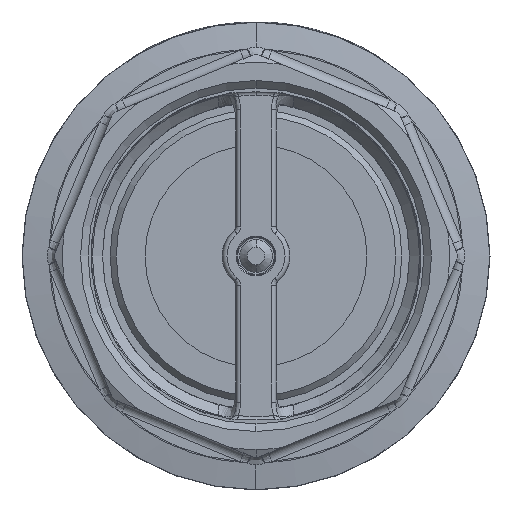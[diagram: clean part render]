
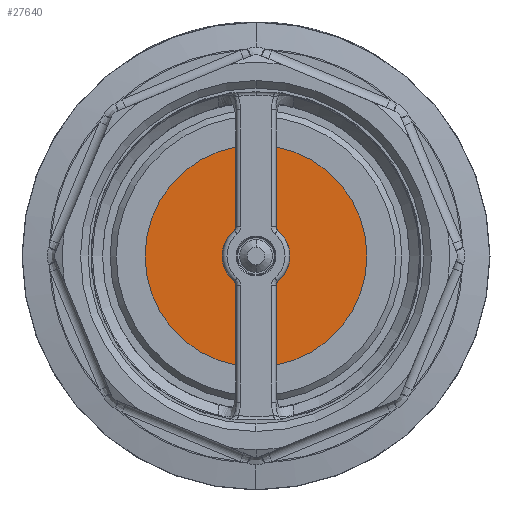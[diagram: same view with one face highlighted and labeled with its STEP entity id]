
A CAD part, front view. The second image highlights one B-rep face of the part: STEP entity #27640.
In plain terms, the highlighted planar face has unit normal (0, -1, 0).
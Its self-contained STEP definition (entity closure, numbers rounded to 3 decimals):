
#11 = CIRCLE ( 'NONE', #4504, 9. ) ;
#1396 = CARTESIAN_POINT ( 'NONE',  ( 0., -86.965, -9. ) ) ;
#1773 = DIRECTION ( 'NONE',  ( 0., -1., 0. ) ) ;
#1849 = DIRECTION ( 'NONE',  ( 0., -1., 0. ) ) ;
#3262 = CARTESIAN_POINT ( 'NONE',  ( 0., -86.965, 0. ) ) ;
#3610 = CARTESIAN_POINT ( 'NONE',  ( 0., -86.965, 0. ) ) ;
#3926 = VERTEX_POINT ( 'NONE', #13769 ) ;
#3985 = PLANE ( 'NONE',  #8192 ) ;
#4504 = AXIS2_PLACEMENT_3D ( 'NONE', #3262, #18778, #5510 ) ;
#4785 = VERTEX_POINT ( 'NONE', #1396 ) ;
#5251 = ORIENTED_EDGE ( 'NONE', *, *, #24193, .T. ) ;
#5433 = EDGE_LOOP ( 'NONE', ( #12675, #21357 ) ) ;
#5510 = DIRECTION ( 'NONE',  ( 0., 0., -1. ) ) ;
#5767 = DIRECTION ( 'NONE',  ( 0., -1., 0. ) ) ;
#5854 = DIRECTION ( 'NONE',  ( 0., 0., -1. ) ) ;
#7462 = FACE_BOUND ( 'NONE', #5433, .T. ) ;
#8192 = AXIS2_PLACEMENT_3D ( 'NONE', #23969, #1849, #17346 ) ;
#8404 = CIRCLE ( 'NONE', #28007, 9. ) ;
#9047 = CIRCLE ( 'NONE', #19562, 36.5 ) ;
#9466 = ORIENTED_EDGE ( 'NONE', *, *, #15481, .T. ) ;
#9644 = AXIS2_PLACEMENT_3D ( 'NONE', #3610, #19129, #5854 ) ;
#10735 = EDGE_CURVE ( 'NONE', #4785, #24753, #8404, .T. ) ;
#11430 = VERTEX_POINT ( 'NONE', #25329 ) ;
#12675 = ORIENTED_EDGE ( 'NONE', *, *, #10735, .F. ) ;
#13769 = CARTESIAN_POINT ( 'NONE',  ( 0., -86.965, 36.5 ) ) ;
#15052 = CARTESIAN_POINT ( 'NONE',  ( 0., -86.965, 0. ) ) ;
#15419 = FACE_OUTER_BOUND ( 'NONE', #16954, .T. ) ;
#15481 = EDGE_CURVE ( 'NONE', #11430, #3926, #9047, .T. ) ;
#16638 = EDGE_CURVE ( 'NONE', #24753, #4785, #11, .T. ) ;
#16954 = EDGE_LOOP ( 'NONE', ( #9466, #5251 ) ) ;
#17269 = DIRECTION ( 'NONE',  ( 0., 0., -1. ) ) ;
#17346 = DIRECTION ( 'NONE',  ( 0., 0., -1. ) ) ;
#18383 = CARTESIAN_POINT ( 'NONE',  ( 0., -86.965, 9. ) ) ;
#18778 = DIRECTION ( 'NONE',  ( 0., -1., 0. ) ) ;
#19030 = CARTESIAN_POINT ( 'NONE',  ( 0., -86.965, 0. ) ) ;
#19129 = DIRECTION ( 'NONE',  ( 0., -1., 0. ) ) ;
#19562 = AXIS2_PLACEMENT_3D ( 'NONE', #19030, #5767, #21267 ) ;
#21267 = DIRECTION ( 'NONE',  ( 0., 0., -1. ) ) ;
#21357 = ORIENTED_EDGE ( 'NONE', *, *, #16638, .F. ) ;
#23969 = CARTESIAN_POINT ( 'NONE',  ( 9., -86.965, 0. ) ) ;
#24193 = EDGE_CURVE ( 'NONE', #3926, #11430, #26231, .T. ) ;
#24753 = VERTEX_POINT ( 'NONE', #18383 ) ;
#25329 = CARTESIAN_POINT ( 'NONE',  ( 0., -86.965, -36.5 ) ) ;
#26231 = CIRCLE ( 'NONE', #9644, 36.5 ) ;
#27640 = ADVANCED_FACE ( 'NONE', ( #15419, #7462 ), #3985, .T. ) ;
#28007 = AXIS2_PLACEMENT_3D ( 'NONE', #15052, #1773, #17269 ) ;
